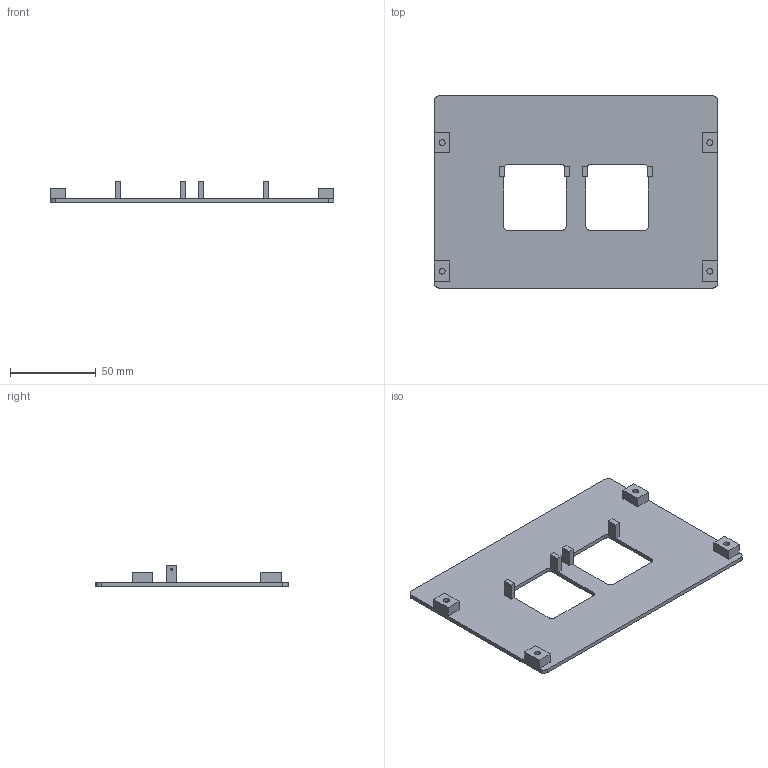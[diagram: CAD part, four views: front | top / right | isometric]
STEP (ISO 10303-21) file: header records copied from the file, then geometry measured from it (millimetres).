
FILE_DESCRIPTION(('Open CASCADE Model'),'2;1');
FILE_NAME('A02_front_panel','2026-11-05T16:12:41',('Author'),( 'Open CASCADE'),'Open CASCADE STEP processor 7.9','build123d', 'Unknown');
FILE_SCHEMA(('AUTOMOTIVE_DESIGN { 1 0 10303 214 1 1 1 1 }'));
Length unit declared in the file: millimetre
Products named in the file (2): A02_front_panel
Assembly tree (1 placements, depth 2):
  A02_front_panel
    A02_front_panel
Bounding box: 165.2 x 112 x 12.4 mm (x, y, z)
Volume: 40327.1 mm3; surface area: 35882.2 mm2
Topology: 1 solids, 1 shells, 114 faces, 292 edges, 192 vertices
Faces by surface type: plane 90, cylinder 24
Full cylindrical faces by diameter (mm): 1.1 x4, 3.4 x8
Entity records: 7360 total; most frequent: CARTESIAN_POINT 1280, DIRECTION 1144, LINE 772, VECTOR 772, ORIENTED_EDGE 584, PCURVE 584, DEFINITIONAL_REPRESENTATION 584, EDGE_CURVE 292
